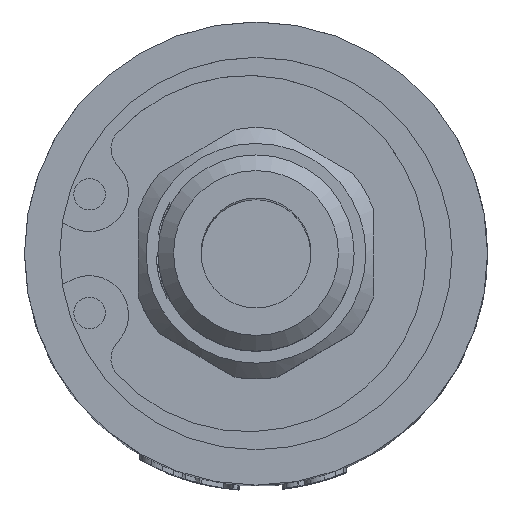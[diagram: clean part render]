
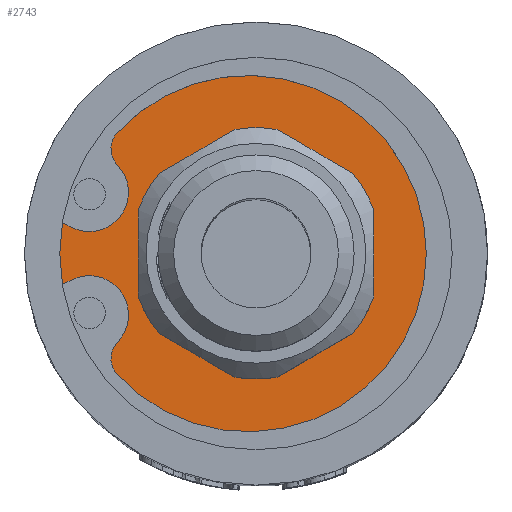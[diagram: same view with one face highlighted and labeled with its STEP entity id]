
A CAD part, top view. The second image highlights one B-rep face of the part: STEP entity #2743.
In plain terms, the highlighted planar face has unit normal (0, 0, 1).
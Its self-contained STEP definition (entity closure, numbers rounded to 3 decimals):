
#139=FACE_BOUND('',#4918,.T.);
#140=FACE_BOUND('',#4919,.T.);
#343=CIRCLE('',#17287,7.);
#344=CIRCLE('',#17288,1.5);
#345=CIRCLE('',#17289,11.35);
#346=CIRCLE('',#17290,1.5);
#347=CIRCLE('',#17291,2.5);
#348=CIRCLE('',#17292,1.);
#349=CIRCLE('',#17293,13.1);
#350=CIRCLE('',#17294,1.);
#351=CIRCLE('',#17295,2.5);
#1166=LINE('',#31988,#1901);
#1167=LINE('',#31996,#1902);
#1901=VECTOR('',#19100,1.);
#1902=VECTOR('',#19107,1.);
#2743=ADVANCED_FACE('',(#139,#140),#3334,.T.);
#3334=PLANE('',#17296);
#4918=EDGE_LOOP('',(#7977));
#4919=EDGE_LOOP('',(#7978,#7979,#7980,#7981,#7982,#7983,#7984,#7985,#7986,
#7987));
#7977=ORIENTED_EDGE('',*,*,#13979,.F.);
#7978=ORIENTED_EDGE('',*,*,#13980,.F.);
#7979=ORIENTED_EDGE('',*,*,#13981,.T.);
#7980=ORIENTED_EDGE('',*,*,#13982,.T.);
#7981=ORIENTED_EDGE('',*,*,#13983,.T.);
#7982=ORIENTED_EDGE('',*,*,#13984,.T.);
#7983=ORIENTED_EDGE('',*,*,#13985,.T.);
#7984=ORIENTED_EDGE('',*,*,#13986,.F.);
#7985=ORIENTED_EDGE('',*,*,#13987,.F.);
#7986=ORIENTED_EDGE('',*,*,#13988,.F.);
#7987=ORIENTED_EDGE('',*,*,#13989,.F.);
#11661=VERTEX_POINT('',#31978);
#11662=VERTEX_POINT('',#31980);
#11663=VERTEX_POINT('',#31981);
#11664=VERTEX_POINT('',#31983);
#11665=VERTEX_POINT('',#31985);
#11666=VERTEX_POINT('',#31987);
#11667=VERTEX_POINT('',#31989);
#11668=VERTEX_POINT('',#31991);
#11669=VERTEX_POINT('',#31993);
#11670=VERTEX_POINT('',#31995);
#11671=VERTEX_POINT('',#31997);
#13979=EDGE_CURVE('',#11661,#11661,#343,.T.);
#13980=EDGE_CURVE('',#11662,#11663,#344,.T.);
#13981=EDGE_CURVE('',#11662,#11664,#345,.T.);
#13982=EDGE_CURVE('',#11664,#11665,#346,.T.);
#13983=EDGE_CURVE('',#11665,#11666,#347,.T.);
#13984=EDGE_CURVE('',#11666,#11667,#1166,.T.);
#13985=EDGE_CURVE('',#11667,#11668,#348,.T.);
#13986=EDGE_CURVE('',#11669,#11668,#349,.T.);
#13987=EDGE_CURVE('',#11670,#11669,#350,.T.);
#13988=EDGE_CURVE('',#11671,#11670,#1167,.T.);
#13989=EDGE_CURVE('',#11663,#11671,#351,.T.);
#17287=AXIS2_PLACEMENT_3D('',#31977,#19090,#19091);
#17288=AXIS2_PLACEMENT_3D('',#31979,#19092,#19093);
#17289=AXIS2_PLACEMENT_3D('',#31982,#19094,#19095);
#17290=AXIS2_PLACEMENT_3D('',#31984,#19096,#19097);
#17291=AXIS2_PLACEMENT_3D('',#31986,#19098,#19099);
#17292=AXIS2_PLACEMENT_3D('',#31990,#19101,#19102);
#17293=AXIS2_PLACEMENT_3D('',#31992,#19103,#19104);
#17294=AXIS2_PLACEMENT_3D('',#31994,#19105,#19106);
#17295=AXIS2_PLACEMENT_3D('',#31998,#19108,#19109);
#17296=AXIS2_PLACEMENT_3D('',#31999,#19110,#19111);
#19090=DIRECTION('',(0.,0.,1.));
#19091=DIRECTION('',(1.,0.,0.));
#19092=DIRECTION('',(0.,0.,-1.));
#19093=DIRECTION('',(-1.,0.,0.));
#19094=DIRECTION('',(0.,0.,1.));
#19095=DIRECTION('',(-1.,0.,0.));
#19096=DIRECTION('',(0.,0.,1.));
#19097=DIRECTION('',(-1.,0.,0.));
#19098=DIRECTION('',(0.,0.,-1.));
#19099=DIRECTION('',(-1.,0.,0.));
#19100=DIRECTION('',(-0.886,0.464,0.));
#19101=DIRECTION('',(0.,0.,-1.));
#19102=DIRECTION('',(-1.,0.,0.));
#19103=DIRECTION('',(0.,0.,-1.));
#19104=DIRECTION('',(1.,0.,0.));
#19105=DIRECTION('',(0.,0.,1.));
#19106=DIRECTION('',(-1.,0.,0.));
#19107=DIRECTION('',(-0.886,-0.464,0.));
#19108=DIRECTION('',(0.,0.,1.));
#19109=DIRECTION('',(-1.,0.,0.));
#19110=DIRECTION('',(0.,0.,1.));
#19111=DIRECTION('',(1.,0.,0.));
#31977=CARTESIAN_POINT('',(0.,0.,41.5));
#31978=CARTESIAN_POINT('',(7.,0.,41.5));
#31979=CARTESIAN_POINT('',(-7.741,-6.678,41.5));
#31980=CARTESIAN_POINT('',(-8.844,-7.694,41.5));
#31981=CARTESIAN_POINT('',(-8.822,-5.637,41.5));
#31982=CARTESIAN_POINT('',(-0.5,0.,41.5));
#31983=CARTESIAN_POINT('',(-8.844,7.694,41.5));
#31984=CARTESIAN_POINT('',(-7.741,6.678,41.5));
#31985=CARTESIAN_POINT('',(-8.822,5.637,41.5));
#31986=CARTESIAN_POINT('',(-10.623,3.904,41.5));
#31987=CARTESIAN_POINT('',(-11.783,1.689,41.5));
#31988=CARTESIAN_POINT('',(-1.842,-3.517,41.5));
#31989=CARTESIAN_POINT('',(-12.233,1.925,41.5));
#31990=CARTESIAN_POINT('',(-11.769,2.811,41.5));
#31991=CARTESIAN_POINT('',(-12.742,3.043,41.5));
#31992=CARTESIAN_POINT('',(0.,0.,41.5));
#31993=CARTESIAN_POINT('',(-12.742,-3.043,41.5));
#31994=CARTESIAN_POINT('',(-11.769,-2.811,41.5));
#31995=CARTESIAN_POINT('',(-12.233,-1.925,41.5));
#31996=CARTESIAN_POINT('',(-1.842,3.517,41.5));
#31997=CARTESIAN_POINT('',(-11.783,-1.689,41.5));
#31998=CARTESIAN_POINT('',(-10.623,-3.904,41.5));
#31999=CARTESIAN_POINT('',(0.,0.,41.5));
